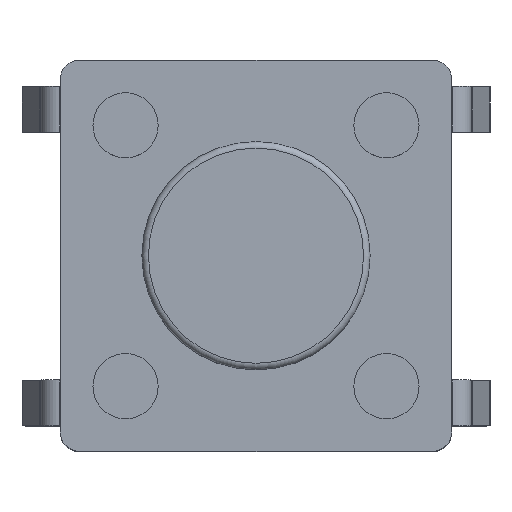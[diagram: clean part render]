
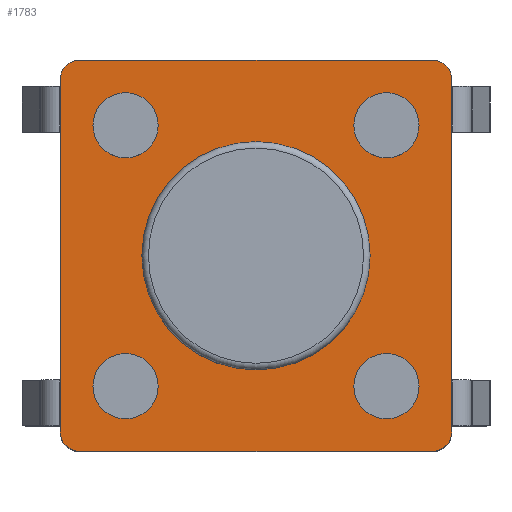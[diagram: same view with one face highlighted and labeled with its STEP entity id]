
A CAD part, top view. The second image highlights one B-rep face of the part: STEP entity #1783.
In plain terms, the highlighted planar face has unit normal (0, 0, 1).
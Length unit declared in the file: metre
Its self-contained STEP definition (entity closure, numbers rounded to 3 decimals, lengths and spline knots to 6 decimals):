
#13=LINE('',#2592,#193);
#14=LINE('',#2596,#194);
#15=LINE('',#2600,#195);
#16=LINE('',#2604,#196);
#193=VECTOR('',#2069,1.);
#194=VECTOR('',#2072,1.);
#195=VECTOR('',#2075,1.);
#196=VECTOR('',#2078,1.);
#413=ORIENTED_EDGE('',*,*,#922,.T.);
#414=ORIENTED_EDGE('',*,*,#923,.T.);
#415=ORIENTED_EDGE('',*,*,#924,.T.);
#416=ORIENTED_EDGE('',*,*,#925,.T.);
#417=ORIENTED_EDGE('',*,*,#926,.T.);
#418=ORIENTED_EDGE('',*,*,#927,.T.);
#419=ORIENTED_EDGE('',*,*,#928,.F.);
#420=ORIENTED_EDGE('',*,*,#929,.T.);
#421=ORIENTED_EDGE('',*,*,#930,.T.);
#422=ORIENTED_EDGE('',*,*,#931,.T.);
#423=ORIENTED_EDGE('',*,*,#932,.T.);
#424=ORIENTED_EDGE('',*,*,#933,.T.);
#425=ORIENTED_EDGE('',*,*,#921,.T.);
#921=EDGE_CURVE('',#1176,#1176,#1347,.T.);
#922=EDGE_CURVE('',#1177,#1178,#1348,.T.);
#923=EDGE_CURVE('',#1178,#1179,#13,.T.);
#924=EDGE_CURVE('',#1179,#1180,#1349,.T.);
#925=EDGE_CURVE('',#1180,#1181,#14,.T.);
#926=EDGE_CURVE('',#1181,#1182,#1350,.T.);
#927=EDGE_CURVE('',#1182,#1183,#15,.F.);
#928=EDGE_CURVE('',#1184,#1183,#1351,.F.);
#929=EDGE_CURVE('',#1184,#1177,#16,.F.);
#930=EDGE_CURVE('',#1185,#1185,#1352,.T.);
#931=EDGE_CURVE('',#1186,#1186,#1353,.T.);
#932=EDGE_CURVE('',#1187,#1187,#1354,.T.);
#933=EDGE_CURVE('',#1188,#1188,#1355,.T.);
#1176=VERTEX_POINT('',#2587);
#1177=VERTEX_POINT('',#2590);
#1178=VERTEX_POINT('',#2591);
#1179=VERTEX_POINT('',#2593);
#1180=VERTEX_POINT('',#2595);
#1181=VERTEX_POINT('',#2597);
#1182=VERTEX_POINT('',#2599);
#1183=VERTEX_POINT('',#2601);
#1184=VERTEX_POINT('',#2603);
#1185=VERTEX_POINT('',#2606);
#1186=VERTEX_POINT('',#2608);
#1187=VERTEX_POINT('',#2610);
#1188=VERTEX_POINT('',#2612);
#1347=CIRCLE('',#1886,0.0005);
#1348=CIRCLE('',#1888,0.0003);
#1349=CIRCLE('',#1889,0.0003);
#1350=CIRCLE('',#1890,0.0003);
#1351=CIRCLE('',#1891,0.0003);
#1352=CIRCLE('',#1892,0.0005);
#1353=CIRCLE('',#1893,0.00175);
#1354=CIRCLE('',#1894,0.0005);
#1355=CIRCLE('',#1895,0.0005);
#1424=EDGE_LOOP('',(#413,#414,#415,#416,#417,#418,#419,#420));
#1425=EDGE_LOOP('',(#421));
#1426=EDGE_LOOP('',(#422));
#1427=EDGE_LOOP('',(#423));
#1428=EDGE_LOOP('',(#424));
#1429=EDGE_LOOP('',(#425));
#1532=FACE_BOUND('',#1424,.T.);
#1533=FACE_BOUND('',#1425,.T.);
#1534=FACE_BOUND('',#1426,.T.);
#1535=FACE_BOUND('',#1427,.T.);
#1536=FACE_BOUND('',#1428,.T.);
#1537=FACE_BOUND('',#1429,.T.);
#1638=PLANE('',#1887);
#1783=ADVANCED_FACE('',(#1532,#1533,#1534,#1535,#1536,#1537),#1638,.F.);
#1886=AXIS2_PLACEMENT_3D('',#2586,#2063,#2064);
#1887=AXIS2_PLACEMENT_3D('',#2588,#2065,#2066);
#1888=AXIS2_PLACEMENT_3D('',#2589,#2067,#2068);
#1889=AXIS2_PLACEMENT_3D('',#2594,#2070,#2071);
#1890=AXIS2_PLACEMENT_3D('',#2598,#2073,#2074);
#1891=AXIS2_PLACEMENT_3D('',#2602,#2076,#2077);
#1892=AXIS2_PLACEMENT_3D('',#2605,#2079,#2080);
#1893=AXIS2_PLACEMENT_3D('',#2607,#2081,#2082);
#1894=AXIS2_PLACEMENT_3D('',#2609,#2083,#2084);
#1895=AXIS2_PLACEMENT_3D('',#2611,#2085,#2086);
#2063=DIRECTION('',(0.,0.,-1.));
#2064=DIRECTION('',(-1.,0.,0.));
#2065=DIRECTION('',(0.,0.,-1.));
#2066=DIRECTION('',(-1.,0.,0.));
#2067=DIRECTION('',(0.,0.,1.));
#2068=DIRECTION('',(1.,0.,0.));
#2069=DIRECTION('',(0.,1.,0.));
#2070=DIRECTION('',(0.,0.,1.));
#2071=DIRECTION('',(1.,0.,0.));
#2072=DIRECTION('',(-1.,0.,0.));
#2073=DIRECTION('',(0.,0.,1.));
#2074=DIRECTION('',(1.,0.,0.));
#2075=DIRECTION('',(0.,1.,0.));
#2076=DIRECTION('',(0.,0.,1.));
#2077=DIRECTION('',(1.,0.,0.));
#2078=DIRECTION('',(-1.,0.,0.));
#2079=DIRECTION('',(0.,0.,-1.));
#2080=DIRECTION('',(-1.,0.,0.));
#2081=DIRECTION('',(0.,0.,-1.));
#2082=DIRECTION('',(-1.,0.,0.));
#2083=DIRECTION('',(0.,0.,-1.));
#2084=DIRECTION('',(-1.,0.,0.));
#2085=DIRECTION('',(0.,0.,-1.));
#2086=DIRECTION('',(-1.,0.,0.));
#2586=CARTESIAN_POINT('',(0.022152,-0.023744,0.005195));
#2587=CARTESIAN_POINT('',(0.021652,-0.023744,0.005195));
#2588=CARTESIAN_POINT('',(0.021152,-0.024744,0.005195));
#2589=CARTESIAN_POINT('',(0.026852,-0.024444,0.005195));
#2590=CARTESIAN_POINT('',(0.026852,-0.024744,0.005195));
#2591=CARTESIAN_POINT('',(0.027152,-0.024444,0.005195));
#2592=CARTESIAN_POINT('',(0.027152,-0.024744,0.005195));
#2593=CARTESIAN_POINT('',(0.027152,-0.019044,0.005195));
#2594=CARTESIAN_POINT('',(0.026852,-0.019044,0.005195));
#2595=CARTESIAN_POINT('',(0.026852,-0.018744,0.005195));
#2596=CARTESIAN_POINT('',(0.021152,-0.018744,0.005195));
#2597=CARTESIAN_POINT('',(0.021452,-0.018744,0.005195));
#2598=CARTESIAN_POINT('',(0.021452,-0.019044,0.005195));
#2599=CARTESIAN_POINT('',(0.021152,-0.019044,0.005195));
#2600=CARTESIAN_POINT('',(0.021152,-0.024744,0.005195));
#2601=CARTESIAN_POINT('',(0.021152,-0.024444,0.005195));
#2602=CARTESIAN_POINT('',(0.021452,-0.024444,0.005195));
#2603=CARTESIAN_POINT('',(0.021452,-0.024744,0.005195));
#2604=CARTESIAN_POINT('',(0.021152,-0.024744,0.005195));
#2605=CARTESIAN_POINT('',(0.026152,-0.023744,0.005195));
#2606=CARTESIAN_POINT('',(0.025652,-0.023744,0.005195));
#2607=CARTESIAN_POINT('',(0.024152,-0.021744,0.005195));
#2608=CARTESIAN_POINT('',(0.022402,-0.021744,0.005195));
#2609=CARTESIAN_POINT('',(0.022152,-0.019744,0.005195));
#2610=CARTESIAN_POINT('',(0.021652,-0.019744,0.005195));
#2611=CARTESIAN_POINT('',(0.026152,-0.019744,0.005195));
#2612=CARTESIAN_POINT('',(0.025652,-0.019744,0.005195));
